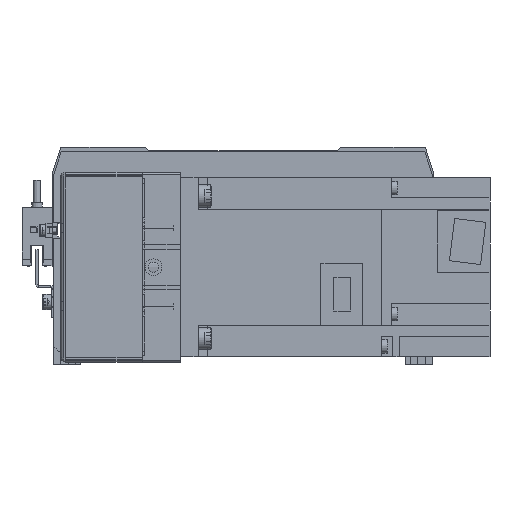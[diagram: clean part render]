
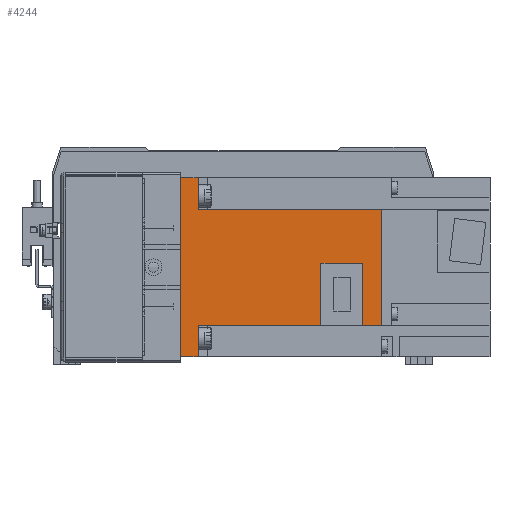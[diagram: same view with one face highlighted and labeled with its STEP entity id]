
A CAD part, front view. The second image highlights one B-rep face of the part: STEP entity #4244.
In plain terms, the highlighted planar face has unit normal (0, -1, 0) as drawn and (1, 0, 0) by its records, which use the part's own axes.
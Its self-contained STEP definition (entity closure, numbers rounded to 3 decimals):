
#118 = EDGE_CURVE ( 'NONE', #12997, #2163, #10107, .T. ) ;
#2163 = VERTEX_POINT ( 'NONE', #24386 ) ;
#2250 = VERTEX_POINT ( 'NONE', #2909 ) ;
#2909 = CARTESIAN_POINT ( 'NONE',  ( 40., 62.8, 1.8 ) ) ;
#3213 = CARTESIAN_POINT ( 'NONE',  ( 40., 89.8, 40. ) ) ;
#3524 = DIRECTION ( 'NONE',  ( 0., 0., 1. ) ) ;
#3934 = CARTESIAN_POINT ( 'NONE',  ( 40., 81.4, 40. ) ) ;
#4244 = ADVANCED_FACE ( 'NONE', ( #42722 ), #23133, .F. ) ;
#5086 = VECTOR ( 'NONE', #28879, 1000. ) ;
#5128 = CARTESIAN_POINT ( 'NONE',  ( 40., 89.8, -25.95 ) ) ;
#5629 = LINE ( 'NONE', #19888, #39586 ) ;
#5851 = CARTESIAN_POINT ( 'NONE',  ( 40., 89.8, -25.95 ) ) ;
#6325 = DIRECTION ( 'NONE',  ( 0., 0., -1. ) ) ;
#6616 = CARTESIAN_POINT ( 'NONE',  ( 40., 62.8, 40. ) ) ;
#7092 = DIRECTION ( 'NONE',  ( 0., 1., 0. ) ) ;
#7189 = DIRECTION ( 'NONE',  ( 0., -1., 0. ) ) ;
#7258 = ORIENTED_EDGE ( 'NONE', *, *, #118, .T. ) ;
#7716 = VECTOR ( 'NONE', #11984, 1000. ) ;
#9386 = VERTEX_POINT ( 'NONE', #34083 ) ;
#10047 = VERTEX_POINT ( 'NONE', #17045 ) ;
#10107 = LINE ( 'NONE', #15121, #39453 ) ;
#10280 = EDGE_CURVE ( 'NONE', #2250, #10047, #31382, .T. ) ;
#11400 = CARTESIAN_POINT ( 'NONE',  ( 40., 8., 40. ) ) ;
#11751 = ORIENTED_EDGE ( 'NONE', *, *, #10280, .F. ) ;
#11984 = DIRECTION ( 'NONE',  ( 0., 0., -1. ) ) ;
#12138 = ORIENTED_EDGE ( 'NONE', *, *, #29278, .F. ) ;
#12581 = VECTOR ( 'NONE', #16156, 1000. ) ;
#12834 = VECTOR ( 'NONE', #6325, 1000. ) ;
#12851 = VERTEX_POINT ( 'NONE', #20886 ) ;
#12997 = VERTEX_POINT ( 'NONE', #15637 ) ;
#13653 = ORIENTED_EDGE ( 'NONE', *, *, #29832, .F. ) ;
#13767 = ORIENTED_EDGE ( 'NONE', *, *, #35169, .F. ) ;
#13844 = LINE ( 'NONE', #5851, #5086 ) ;
#13995 = DIRECTION ( 'NONE',  ( 0., 0., 1. ) ) ;
#14297 = LINE ( 'NONE', #38197, #21023 ) ;
#15121 = CARTESIAN_POINT ( 'NONE',  ( 40., 89.8, -40. ) ) ;
#15637 = CARTESIAN_POINT ( 'NONE',  ( 40., 0., -40. ) ) ;
#16156 = DIRECTION ( 'NONE',  ( 0., 1., 0. ) ) ;
#17045 = CARTESIAN_POINT ( 'NONE',  ( 40., 62.8, -25.95 ) ) ;
#17773 = VECTOR ( 'NONE', #34302, 1000. ) ;
#17971 = ORIENTED_EDGE ( 'NONE', *, *, #36442, .F. ) ;
#18743 = ORIENTED_EDGE ( 'NONE', *, *, #22602, .F. ) ;
#19492 = VERTEX_POINT ( 'NONE', #20767 ) ;
#19888 = CARTESIAN_POINT ( 'NONE',  ( 40., 89.8, 25.95 ) ) ;
#19897 = VECTOR ( 'NONE', #7189, 1000. ) ;
#20435 = CARTESIAN_POINT ( 'NONE',  ( 40., 89.8, -25.95 ) ) ;
#20673 = ORIENTED_EDGE ( 'NONE', *, *, #33366, .F. ) ;
#20767 = CARTESIAN_POINT ( 'NONE',  ( 40., 8., -25.95 ) ) ;
#20886 = CARTESIAN_POINT ( 'NONE',  ( 40., 89.8, 25.95 ) ) ;
#21023 = VECTOR ( 'NONE', #21424, 1000. ) ;
#21036 = AXIS2_PLACEMENT_3D ( 'NONE', #32886, #32602, #3524 ) ;
#21424 = DIRECTION ( 'NONE',  ( 0., -1., 0. ) ) ;
#22347 = EDGE_CURVE ( 'NONE', #27638, #12997, #26299, .T. ) ;
#22367 = VECTOR ( 'NONE', #41882, 1000. ) ;
#22602 = EDGE_CURVE ( 'NONE', #9386, #12851, #5629, .T. ) ;
#22963 = EDGE_CURVE ( 'NONE', #10047, #19492, #13844, .T. ) ;
#23133 = PLANE ( 'NONE',  #21036 ) ;
#24386 = CARTESIAN_POINT ( 'NONE',  ( 40., 8., -40. ) ) ;
#24936 = LINE ( 'NONE', #35130, #22367 ) ;
#25413 = CARTESIAN_POINT ( 'NONE',  ( 40., 0., 0. ) ) ;
#25882 = ORIENTED_EDGE ( 'NONE', *, *, #27349, .F. ) ;
#26299 = LINE ( 'NONE', #25413, #7716 ) ;
#26321 = ORIENTED_EDGE ( 'NONE', *, *, #22963, .F. ) ;
#26574 = LINE ( 'NONE', #11400, #17773 ) ;
#27148 = CARTESIAN_POINT ( 'NONE',  ( 40., 81.4, 1.8 ) ) ;
#27349 = EDGE_CURVE ( 'NONE', #19492, #2163, #26574, .T. ) ;
#27624 = VERTEX_POINT ( 'NONE', #42047 ) ;
#27638 = VERTEX_POINT ( 'NONE', #28960 ) ;
#28879 = DIRECTION ( 'NONE',  ( 0., -1., 0. ) ) ;
#28960 = CARTESIAN_POINT ( 'NONE',  ( 40., 0., 40. ) ) ;
#29182 = VECTOR ( 'NONE', #30473, 1000. ) ;
#29278 = EDGE_CURVE ( 'NONE', #29783, #2250, #14297, .T. ) ;
#29359 = VERTEX_POINT ( 'NONE', #5128 ) ;
#29783 = VERTEX_POINT ( 'NONE', #27148 ) ;
#29832 = EDGE_CURVE ( 'NONE', #27624, #29783, #42088, .T. ) ;
#30473 = DIRECTION ( 'NONE',  ( 0., 0., -1. ) ) ;
#31197 = CARTESIAN_POINT ( 'NONE',  ( 40., 8., 40. ) ) ;
#31382 = LINE ( 'NONE', #6616, #12834 ) ;
#31832 = EDGE_CURVE ( 'NONE', #12851, #29359, #37913, .T. ) ;
#32602 = DIRECTION ( 'NONE',  ( -1., 0., 0. ) ) ;
#32842 = DIRECTION ( 'NONE',  ( 0., 1., 0. ) ) ;
#32886 = CARTESIAN_POINT ( 'NONE',  ( 40., 89.8, 40. ) ) ;
#33366 = EDGE_CURVE ( 'NONE', #27638, #38324, #39372, .T. ) ;
#33852 = VECTOR ( 'NONE', #13995, 1000. ) ;
#34083 = CARTESIAN_POINT ( 'NONE',  ( 40., 8., 25.95 ) ) ;
#34101 = ORIENTED_EDGE ( 'NONE', *, *, #31832, .F. ) ;
#34302 = DIRECTION ( 'NONE',  ( 0., 0., -1. ) ) ;
#35130 = CARTESIAN_POINT ( 'NONE',  ( 40., 8., 40. ) ) ;
#35169 = EDGE_CURVE ( 'NONE', #29359, #27624, #42031, .T. ) ;
#36442 = EDGE_CURVE ( 'NONE', #38324, #9386, #24936, .T. ) ;
#37913 = LINE ( 'NONE', #40093, #29182 ) ;
#38197 = CARTESIAN_POINT ( 'NONE',  ( 40., 89.8, 1.8 ) ) ;
#38324 = VERTEX_POINT ( 'NONE', #31197 ) ;
#38611 = EDGE_LOOP ( 'NONE', ( #13767, #34101, #18743, #17971, #20673, #42726, #7258, #25882, #26321, #11751, #12138, #13653 ) ) ;
#39372 = LINE ( 'NONE', #3213, #12581 ) ;
#39453 = VECTOR ( 'NONE', #32842, 1000. ) ;
#39586 = VECTOR ( 'NONE', #7092, 1000. ) ;
#40093 = CARTESIAN_POINT ( 'NONE',  ( 40., 89.8, 40. ) ) ;
#41882 = DIRECTION ( 'NONE',  ( 0., 0., -1. ) ) ;
#42031 = LINE ( 'NONE', #20435, #19897 ) ;
#42047 = CARTESIAN_POINT ( 'NONE',  ( 40., 81.4, -25.95 ) ) ;
#42088 = LINE ( 'NONE', #3934, #33852 ) ;
#42722 = FACE_OUTER_BOUND ( 'NONE', #38611, .T. ) ;
#42726 = ORIENTED_EDGE ( 'NONE', *, *, #22347, .T. ) ;
